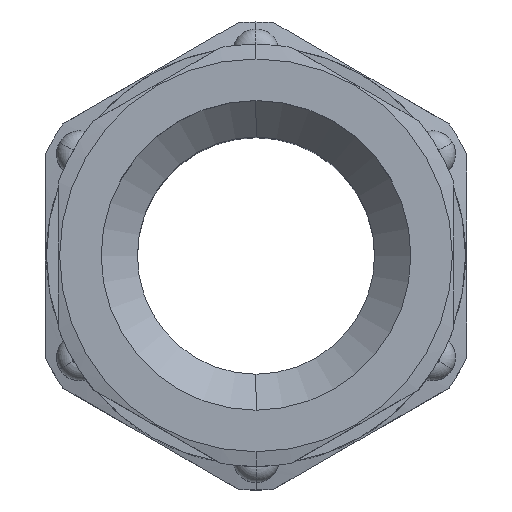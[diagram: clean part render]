
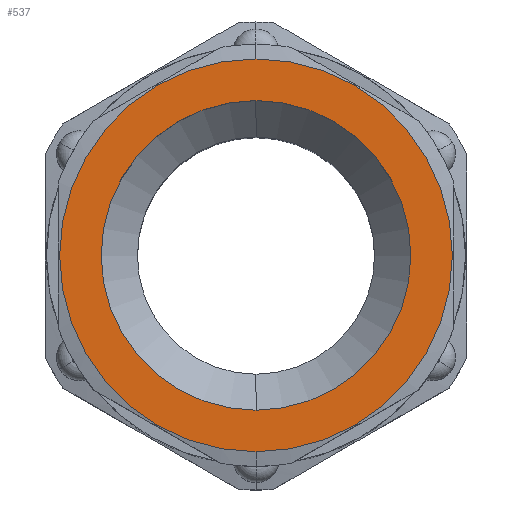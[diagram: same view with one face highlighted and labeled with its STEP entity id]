
A CAD part, top view. The second image highlights one B-rep face of the part: STEP entity #537.
In plain terms, the highlighted planar face has unit normal (0, 0, 1).
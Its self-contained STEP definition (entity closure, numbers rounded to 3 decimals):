
#235 = EDGE_CURVE ( 'NONE', #1964, #3618, #1534, .T. ) ;
#519 = EDGE_LOOP ( 'NONE', ( #520, #521 ) ) ;
#520 = ORIENTED_EDGE ( 'NONE', *, *, #1983, .F. ) ;
#521 = ORIENTED_EDGE ( 'NONE', *, *, #235, .F. ) ;
#532 = EDGE_LOOP ( 'NONE', ( #533, #538 ) ) ;
#533 = ORIENTED_EDGE ( 'NONE', *, *, #534, .T. ) ;
#534 = EDGE_CURVE ( 'NONE', #3741, #3733, #2066, .T. ) ;
#537 = ADVANCED_FACE ( 'NONE', ( #2061, #2060 ), #2059, .F. ) ;
#538 = ORIENTED_EDGE ( 'NONE', *, *, #3732, .T. ) ;
#1530 = DIRECTION ( 'NONE',  ( 0., 1., 0. ) ) ;
#1531 = DIRECTION ( 'NONE',  ( 0., 0., -1. ) ) ;
#1532 = CARTESIAN_POINT ( 'NONE',  ( 0., 0., 44.5 ) ) ;
#1533 = AXIS2_PLACEMENT_3D ( 'NONE', #1532, #1531, #1530 ) ;
#1534 = CIRCLE ( 'NONE', #1533, 14.9 ) ;
#1964 = VERTEX_POINT ( 'NONE', #2797 ) ;
#1983 = EDGE_CURVE ( 'NONE', #3618, #1964, #2808, .T. ) ;
#2055 = DIRECTION ( 'NONE',  ( 0., 1., 0. ) ) ;
#2056 = DIRECTION ( 'NONE',  ( 0., 0., -1. ) ) ;
#2057 = CARTESIAN_POINT ( 'NONE',  ( 0., -14.9, 44.5 ) ) ;
#2058 = AXIS2_PLACEMENT_3D ( 'NONE', #2057, #2056, #2055 ) ;
#2059 = PLANE ( 'NONE',  #2058 ) ;
#2060 = FACE_BOUND ( 'NONE', #532, .T. ) ;
#2061 = FACE_OUTER_BOUND ( 'NONE', #519, .T. ) ;
#2062 = DIRECTION ( 'NONE',  ( 0., 1., 0. ) ) ;
#2063 = DIRECTION ( 'NONE',  ( 0., 0., -1. ) ) ;
#2064 = CARTESIAN_POINT ( 'NONE',  ( 0., 0., 44.5 ) ) ;
#2065 = AXIS2_PLACEMENT_3D ( 'NONE', #2064, #2063, #2062 ) ;
#2066 = CIRCLE ( 'NONE', #2065, 11.75 ) ;
#2797 = CARTESIAN_POINT ( 'NONE',  ( 0., -14.9, 44.5 ) ) ;
#2804 = DIRECTION ( 'NONE',  ( 0., 1., 0. ) ) ;
#2805 = DIRECTION ( 'NONE',  ( 0., 0., -1. ) ) ;
#2806 = CARTESIAN_POINT ( 'NONE',  ( 0., 0., 44.5 ) ) ;
#2807 = AXIS2_PLACEMENT_3D ( 'NONE', #2806, #2805, #2804 ) ;
#2808 = CIRCLE ( 'NONE', #2807, 14.9 ) ;
#2965 = CARTESIAN_POINT ( 'NONE',  ( 0., 14.9, 44.5 ) ) ;
#3228 = CARTESIAN_POINT ( 'NONE',  ( 0., -11.75, 44.5 ) ) ;
#3229 = DIRECTION ( 'NONE',  ( 0., 1., 0. ) ) ;
#3230 = DIRECTION ( 'NONE',  ( 0., 0., -1. ) ) ;
#3231 = CARTESIAN_POINT ( 'NONE',  ( 0., 0., 44.5 ) ) ;
#3232 = AXIS2_PLACEMENT_3D ( 'NONE', #3231, #3230, #3229 ) ;
#3237 = CIRCLE ( 'NONE', #3232, 11.75 ) ;
#3274 = CARTESIAN_POINT ( 'NONE',  ( 0., 11.75, 44.5 ) ) ;
#3618 = VERTEX_POINT ( 'NONE', #2965 ) ;
#3732 = EDGE_CURVE ( 'NONE', #3733, #3741, #3237, .T. ) ;
#3733 = VERTEX_POINT ( 'NONE', #3228 ) ;
#3741 = VERTEX_POINT ( 'NONE', #3274 ) ;
